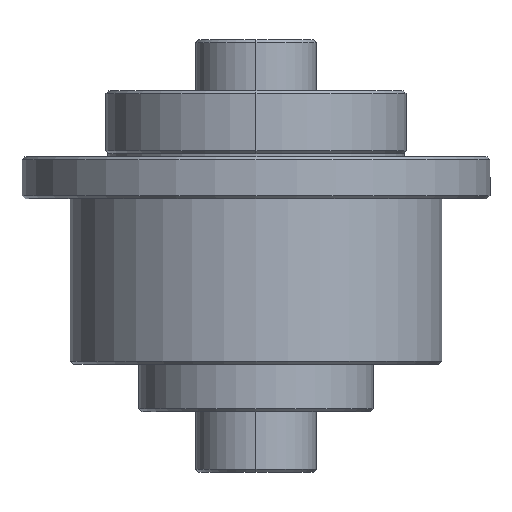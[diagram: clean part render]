
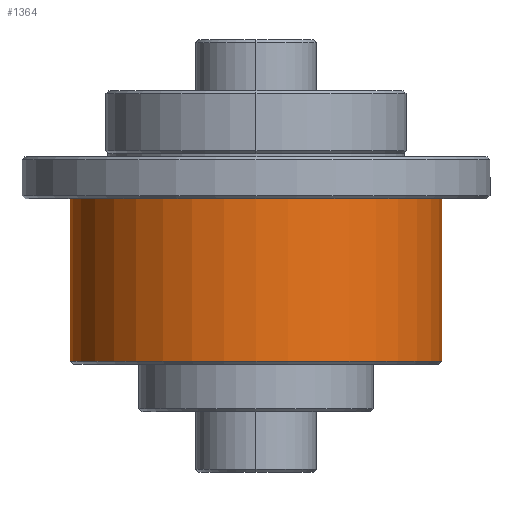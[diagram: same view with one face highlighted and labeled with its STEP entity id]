
A CAD part, left-side view. The second image highlights one B-rep face of the part: STEP entity #1364.
In plain terms, the highlighted cylindrical face has radius 31 mm (diameter 62 mm), a partial arc.
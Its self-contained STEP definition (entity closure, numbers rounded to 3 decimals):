
#57 = ORIENTED_EDGE ( 'NONE', *, *, #908, .F. ) ;
#77 = VERTEX_POINT ( 'NONE', #1513 ) ;
#85 = CARTESIAN_POINT ( 'NONE',  ( 0., 0., -16.5 ) ) ;
#169 = AXIS2_PLACEMENT_3D ( 'NONE', #1462, #446, #1643 ) ;
#304 = DIRECTION ( 'NONE',  ( 0., -1., 0. ) ) ;
#356 = LINE ( 'NONE', #1956, #1685 ) ;
#446 = DIRECTION ( 'NONE',  ( 0., 0., 1. ) ) ;
#487 = CARTESIAN_POINT ( 'NONE',  ( 0., -31., -16.5 ) ) ;
#528 = DIRECTION ( 'NONE',  ( 0., -1., 0. ) ) ;
#625 = EDGE_CURVE ( 'NONE', #77, #1339, #1551, .T. ) ;
#721 = LINE ( 'NONE', #1410, #1683 ) ;
#908 = EDGE_CURVE ( 'NONE', #77, #1912, #356, .T. ) ;
#912 = ORIENTED_EDGE ( 'NONE', *, *, #625, .T. ) ;
#1059 = EDGE_LOOP ( 'NONE', ( #57, #912, #1187, #2024 ) ) ;
#1162 = VERTEX_POINT ( 'NONE', #487 ) ;
#1187 = ORIENTED_EDGE ( 'NONE', *, *, #1211, .T. ) ;
#1211 = EDGE_CURVE ( 'NONE', #1339, #1162, #721, .T. ) ;
#1252 = DIRECTION ( 'NONE',  ( 0., 0., 1. ) ) ;
#1314 = CIRCLE ( 'NONE', #2136, 31. ) ;
#1339 = VERTEX_POINT ( 'NONE', #1365 ) ;
#1340 = DIRECTION ( 'NONE',  ( 0., 0., 1. ) ) ;
#1364 = ADVANCED_FACE ( 'NONE', ( #1559 ), #2324, .T. ) ;
#1365 = CARTESIAN_POINT ( 'NONE',  ( 0., -31., -43.5 ) ) ;
#1410 = CARTESIAN_POINT ( 'NONE',  ( 0., -31., 3.5 ) ) ;
#1462 = CARTESIAN_POINT ( 'NONE',  ( 0., 0., -43.5 ) ) ;
#1513 = CARTESIAN_POINT ( 'NONE',  ( 0., 31., -43.5 ) ) ;
#1551 = CIRCLE ( 'NONE', #169, 31. ) ;
#1559 = FACE_OUTER_BOUND ( 'NONE', #1059, .T. ) ;
#1641 = EDGE_CURVE ( 'NONE', #1912, #1162, #1314, .T. ) ;
#1643 = DIRECTION ( 'NONE',  ( 0., -1., 0. ) ) ;
#1683 = VECTOR ( 'NONE', #1252, 1000. ) ;
#1685 = VECTOR ( 'NONE', #2147, 1000. ) ;
#1912 = VERTEX_POINT ( 'NONE', #2140 ) ;
#1956 = CARTESIAN_POINT ( 'NONE',  ( 0., 31., 3.5 ) ) ;
#2024 = ORIENTED_EDGE ( 'NONE', *, *, #1641, .F. ) ;
#2136 = AXIS2_PLACEMENT_3D ( 'NONE', #85, #1340, #304 ) ;
#2138 = DIRECTION ( 'NONE',  ( 0., 0., 1. ) ) ;
#2140 = CARTESIAN_POINT ( 'NONE',  ( 0., 31., -16.5 ) ) ;
#2147 = DIRECTION ( 'NONE',  ( 0., 0., 1. ) ) ;
#2280 = AXIS2_PLACEMENT_3D ( 'NONE', #2322, #2138, #528 ) ;
#2322 = CARTESIAN_POINT ( 'NONE',  ( 0., 0., 3.5 ) ) ;
#2324 = CYLINDRICAL_SURFACE ( 'NONE', #2280, 31. ) ;
